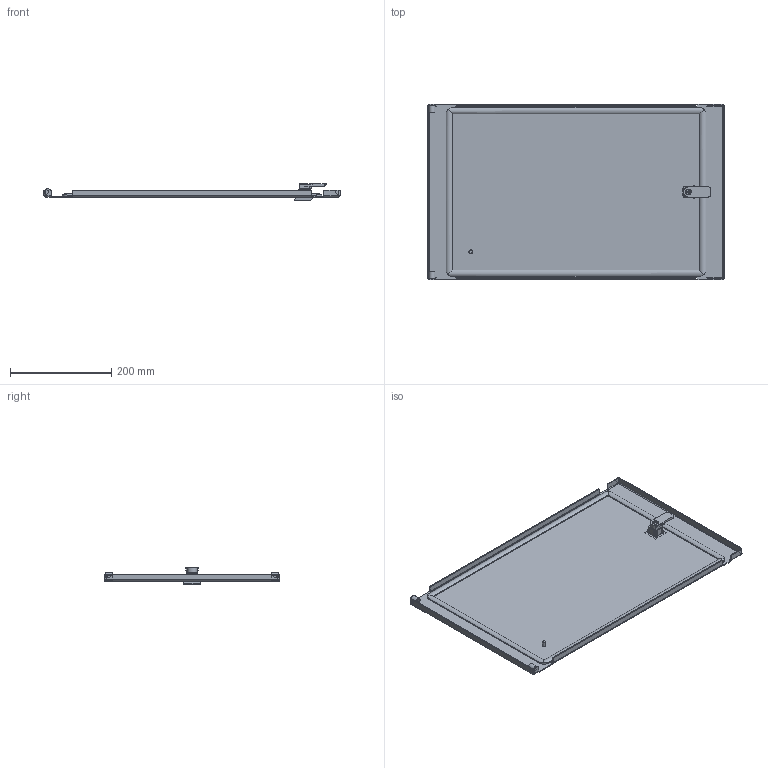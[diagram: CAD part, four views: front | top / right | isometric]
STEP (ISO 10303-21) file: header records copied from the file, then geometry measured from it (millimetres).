
FILE_DESCRIPTION(('STEP AP203'), '1');
FILE_NAME('Äâåðü ñåêöèîííàÿ 350õ600 ìì OptiBox M 419365 ÊÝÀÇ', '', ('UNSPECIFIED'), ('UNSPECIFIED'), 'C3D Converter', 'C3D Toolkit', '');
FILE_SCHEMA(('CONFIG_CONTROL_DESIGN'));
Length unit declared in the file: millimetre
Bounding box: 586.4 x 347 x 32.2 mm (x, y, z)
Volume: 538166.6 mm3; surface area: 508392.2 mm2
Topology: 6 solids, 6 shells, 355 faces, 928 edges, 588 vertices
Faces by surface type: plane 252, cylinder 92, bspline 8, cone 2, torus 1
Full cylindrical faces by diameter (mm): 0.75 x1, 1 x1, 3 x1, 5 x2, 6 x1, 7.5 x1, 9.3 x1, 10 x1, 20 x1
Entity records: 11864 total; most frequent: CARTESIAN_POINT 3095, ORIENTED_EDGE 1830, DIRECTION 1731, EDGE_CURVE 915, LINE 705, VECTOR 705, VERTEX_POINT 588, AXIS2_PLACEMENT_3D 513
